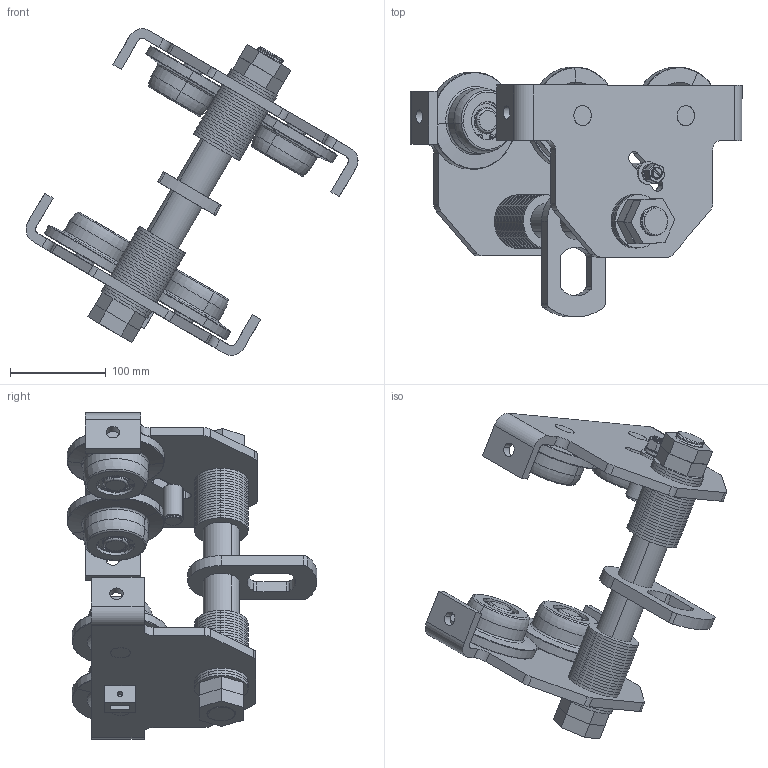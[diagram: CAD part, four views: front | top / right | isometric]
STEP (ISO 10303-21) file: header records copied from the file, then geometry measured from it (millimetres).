
FILE_DESCRIPTION (( 'STEP AP214' ), '1' );
FILE_NAME ('忒芢苤陬.STEP', '2023-02-15T06:01:59', ( '' ), ( '' ), 'SwSTEP 2.0', 'SolidWorks 2018', '' );
FILE_SCHEMA (( 'AUTOMOTIVE_DESIGN' ));
Length unit declared in the file: millimetre
Products named in the file (22): 粣創裔; 裂啣; 陬謫郪璃; 境褽杶; 12平垫圈; 2T酘Х啣; 粣縐17; M12鞠褒蹟譫; 孔用挡圈; 酘Х啣郪璃; 陬謫; 粣創; 2T境褽; 衵Х啣郪璃; M30; 忒芢苤陬; 平垫圈; す算杶; 2T衵Х啣; 粟菜12; す算粣; 陬謫粣
Assembly tree (86 placements, depth 4):
  忒芢苤陬
    裂啣
    2T境褽
    境褽杶  x2
    平垫圈  x46
    酘Х啣郪璃
      2T酘Х啣
      陬謫粣  x2
      陬謫郪璃  x2
        陬謫
        粣創
      粣縐17  x2
      粣創裔  x2
      孔用挡圈  x2
      す算粣
      す算杶
      12平垫圈
      粟菜12
      M12鞠褒蹟譫
    衵Х啣郪璃
      2T衵Х啣
      陬謫粣  x2
      陬謫郪璃
        陬謫
        粣創
      陬謫
      粣創
      粣縐17  x2
      粣創裔  x2
      孔用挡圈  x2
    M30  x4
Bounding box: 347.27 x 260.96 x 341.61 mm (x, y, z)
Volume: 2056657.8 mm3; surface area: 660143.9 mm2
Topology: 154 solids, 154 shells, 1274 faces, 3059 edges, 2000 vertices
Faces by surface type: cylinder 628, plane 332, sphere 128, torus 88, cone 77, bspline 21
Entity records: 29822 total; most frequent: CARTESIAN_POINT 17469, DIRECTION 2375, ORIENTED_EDGE 2314, EDGE_CURVE 1157, AXIS2_PLACEMENT_3D 939, VERTEX_POINT 764, EDGE_LOOP 545, LINE 497
